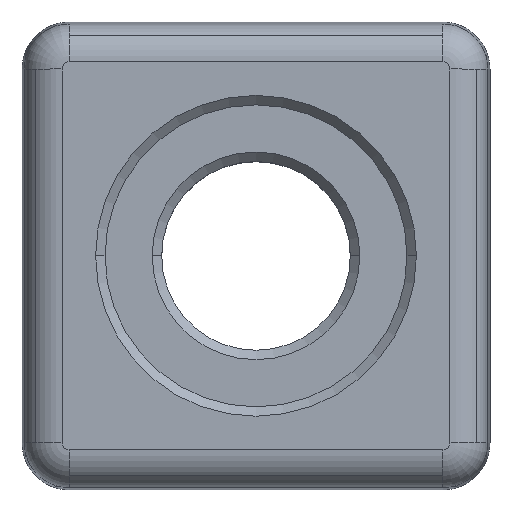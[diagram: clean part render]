
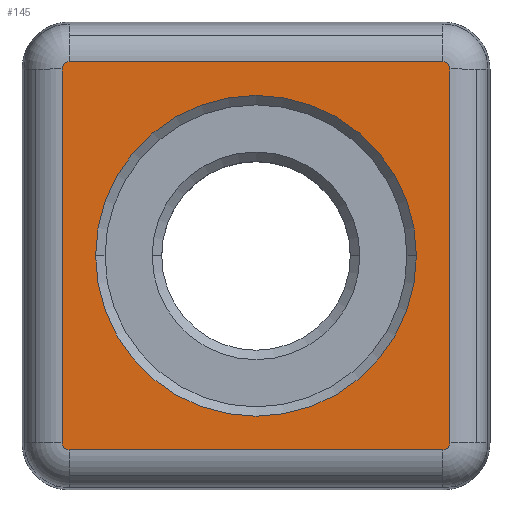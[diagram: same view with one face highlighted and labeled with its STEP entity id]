
A CAD part, top view. The second image highlights one B-rep face of the part: STEP entity #145.
In plain terms, the highlighted planar face has unit normal (0, 0, 1).
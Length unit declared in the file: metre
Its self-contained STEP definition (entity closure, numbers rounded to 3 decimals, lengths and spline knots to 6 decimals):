
#102 = VECTOR ( 'NONE', #2682, 1. ) ;
#145 = ADVANCED_FACE ( 'NONE', ( #856, #2205 ), #3264, .T. ) ;
#147 = VERTEX_POINT ( 'NONE', #159 ) ;
#159 = CARTESIAN_POINT ( 'NONE',  ( 0.405769, 0.464369, 0.01275 ) ) ;
#164 = DIRECTION ( 'NONE',  ( 0., -1., 0. ) ) ;
#202 = LINE ( 'NONE', #2401, #3630 ) ;
#313 = EDGE_CURVE ( 'NONE', #147, #1848, #2809, .T. ) ;
#359 = CARTESIAN_POINT ( 'NONE',  ( 0.415669, 0.474645, 0.01275 ) ) ;
#404 = AXIS2_PLACEMENT_3D ( 'NONE', #2995, #2181, #2444 ) ;
#421 = CARTESIAN_POINT ( 'NONE',  ( 0.405393, 0.484545, 0.01275 ) ) ;
#520 = AXIS2_PLACEMENT_3D ( 'NONE', #668, #2654, #2604 ) ;
#542 = EDGE_LOOP ( 'NONE', ( #1567, #2626, #3473, #2296, #3503, #2640, #3338, #2712 ) ) ;
#606 = VECTOR ( 'NONE', #3037, 1. ) ;
#621 = VECTOR ( 'NONE', #164, 1. ) ;
#668 = CARTESIAN_POINT ( 'NONE',  ( 0.425569, 0.484545, 0.01275 ) ) ;
#740 = DIRECTION ( 'NONE',  ( 0., 0., -1. ) ) ;
#837 = CARTESIAN_POINT ( 'NONE',  ( 0.425569, 0.464745, 0.01275 ) ) ;
#856 = FACE_OUTER_BOUND ( 'NONE', #542, .T. ) ;
#984 = EDGE_CURVE ( 'NONE', #1232, #2455, #2887, .T. ) ;
#1015 = CARTESIAN_POINT ( 'NONE',  ( 0.405393, 0.464745, 0.01275 ) ) ;
#1090 = EDGE_CURVE ( 'NONE', #1406, #1232, #1928, .T. ) ;
#1118 = AXIS2_PLACEMENT_3D ( 'NONE', #3591, #1341, #1623 ) ;
#1143 = CIRCLE ( 'NONE', #2123, 0.000377 ) ;
#1217 = VERTEX_POINT ( 'NONE', #421 ) ;
#1232 = VERTEX_POINT ( 'NONE', #2406 ) ;
#1274 = CARTESIAN_POINT ( 'NONE',  ( 0.40604, 0.474645, 0.01275 ) ) ;
#1297 = CARTESIAN_POINT ( 'NONE',  ( 0.407169, 0.474645, 0.01275 ) ) ;
#1341 = DIRECTION ( 'NONE',  ( 0., 0., -1. ) ) ;
#1406 = VERTEX_POINT ( 'NONE', #3082 ) ;
#1441 = VERTEX_POINT ( 'NONE', #2802 ) ;
#1496 = CARTESIAN_POINT ( 'NONE',  ( 0.425946, 0.464745, 0.01275 ) ) ;
#1515 = DIRECTION ( 'NONE',  ( 0., 0., 1. ) ) ;
#1524 = DIRECTION ( 'NONE',  ( 1., 0., 0. ) ) ;
#1542 = CIRCLE ( 'NONE', #2673, 0.000377 ) ;
#1567 = ORIENTED_EDGE ( 'NONE', *, *, #984, .F. ) ;
#1585 = DIRECTION ( 'NONE',  ( 0., 0., 1. ) ) ;
#1623 = DIRECTION ( 'NONE',  ( -0.707, -0.707, 0. ) ) ;
#1644 = DIRECTION ( 'NONE',  ( -0.707, 0.707, 0. ) ) ;
#1733 = LINE ( 'NONE', #2436, #102 ) ;
#1760 = EDGE_CURVE ( 'NONE', #1217, #1441, #1143, .T. ) ;
#1848 = VERTEX_POINT ( 'NONE', #1015 ) ;
#1928 = CIRCLE ( 'NONE', #520, 0.000377 ) ;
#1943 = ORIENTED_EDGE ( 'NONE', *, *, #3456, .F. ) ;
#2053 = EDGE_CURVE ( 'NONE', #1441, #1406, #202, .T. ) ;
#2076 = EDGE_CURVE ( 'NONE', #3292, #147, #1733, .T. ) ;
#2123 = AXIS2_PLACEMENT_3D ( 'NONE', #2439, #740, #1644 ) ;
#2181 = DIRECTION ( 'NONE',  ( 0., 0., 1. ) ) ;
#2205 = FACE_BOUND ( 'NONE', #3056, .T. ) ;
#2283 = AXIS2_PLACEMENT_3D ( 'NONE', #359, #1515, #3482 ) ;
#2296 = ORIENTED_EDGE ( 'NONE', *, *, #1760, .F. ) ;
#2373 = CARTESIAN_POINT ( 'NONE',  ( 0.425569, 0.464369, 0.01275 ) ) ;
#2401 = CARTESIAN_POINT ( 'NONE',  ( 0.410855, 0.484922, 0.01275 ) ) ;
#2406 = CARTESIAN_POINT ( 'NONE',  ( 0.425946, 0.484545, 0.01275 ) ) ;
#2436 = CARTESIAN_POINT ( 'NONE',  ( 0.410855, 0.464369, 0.01275 ) ) ;
#2439 = CARTESIAN_POINT ( 'NONE',  ( 0.405769, 0.484545, 0.01275 ) ) ;
#2444 = DIRECTION ( 'NONE',  ( 1., 0., 0. ) ) ;
#2455 = VERTEX_POINT ( 'NONE', #1496 ) ;
#2492 = ORIENTED_EDGE ( 'NONE', *, *, #2720, .F. ) ;
#2592 = CARTESIAN_POINT ( 'NONE',  ( 0.405393, 0.474645, 0.01275 ) ) ;
#2604 = DIRECTION ( 'NONE',  ( 0.707, 0.707, 0. ) ) ;
#2607 = CIRCLE ( 'NONE', #2283, 0.0085 ) ;
#2626 = ORIENTED_EDGE ( 'NONE', *, *, #1090, .F. ) ;
#2640 = ORIENTED_EDGE ( 'NONE', *, *, #313, .F. ) ;
#2654 = DIRECTION ( 'NONE',  ( 0., 0., -1. ) ) ;
#2673 = AXIS2_PLACEMENT_3D ( 'NONE', #837, #2810, #2798 ) ;
#2674 = EDGE_CURVE ( 'NONE', #1848, #1217, #3405, .T. ) ;
#2682 = DIRECTION ( 'NONE',  ( -1., 0., 0. ) ) ;
#2712 = ORIENTED_EDGE ( 'NONE', *, *, #2999, .F. ) ;
#2720 = EDGE_CURVE ( 'NONE', #2726, #3624, #3449, .T. ) ;
#2726 = VERTEX_POINT ( 'NONE', #1297 ) ;
#2762 = CARTESIAN_POINT ( 'NONE',  ( 0.425946, 0.474645, 0.01275 ) ) ;
#2798 = DIRECTION ( 'NONE',  ( 0.707, -0.707, 0. ) ) ;
#2802 = CARTESIAN_POINT ( 'NONE',  ( 0.405769, 0.484922, 0.01275 ) ) ;
#2809 = CIRCLE ( 'NONE', #1118, 0.000377 ) ;
#2810 = DIRECTION ( 'NONE',  ( 0., 0., -1. ) ) ;
#2887 = LINE ( 'NONE', #2762, #621 ) ;
#2995 = CARTESIAN_POINT ( 'NONE',  ( 0.415669, 0.474645, 0.01275 ) ) ;
#2999 = EDGE_CURVE ( 'NONE', #2455, #3292, #1542, .T. ) ;
#3037 = DIRECTION ( 'NONE',  ( 0., 1., 0. ) ) ;
#3056 = EDGE_LOOP ( 'NONE', ( #2492, #1943 ) ) ;
#3082 = CARTESIAN_POINT ( 'NONE',  ( 0.425569, 0.484922, 0.01275 ) ) ;
#3092 = AXIS2_PLACEMENT_3D ( 'NONE', #1274, #1585, #3250 ) ;
#3250 = DIRECTION ( 'NONE',  ( 1., 0., 0. ) ) ;
#3264 = PLANE ( 'NONE',  #3092 ) ;
#3292 = VERTEX_POINT ( 'NONE', #2373 ) ;
#3338 = ORIENTED_EDGE ( 'NONE', *, *, #2076, .F. ) ;
#3405 = LINE ( 'NONE', #2592, #606 ) ;
#3449 = CIRCLE ( 'NONE', #404, 0.0085 ) ;
#3456 = EDGE_CURVE ( 'NONE', #3624, #2726, #2607, .T. ) ;
#3473 = ORIENTED_EDGE ( 'NONE', *, *, #2053, .F. ) ;
#3482 = DIRECTION ( 'NONE',  ( 1., 0., 0. ) ) ;
#3503 = ORIENTED_EDGE ( 'NONE', *, *, #2674, .F. ) ;
#3530 = CARTESIAN_POINT ( 'NONE',  ( 0.424169, 0.474645, 0.01275 ) ) ;
#3591 = CARTESIAN_POINT ( 'NONE',  ( 0.405769, 0.464745, 0.01275 ) ) ;
#3624 = VERTEX_POINT ( 'NONE', #3530 ) ;
#3630 = VECTOR ( 'NONE', #1524, 1. ) ;
